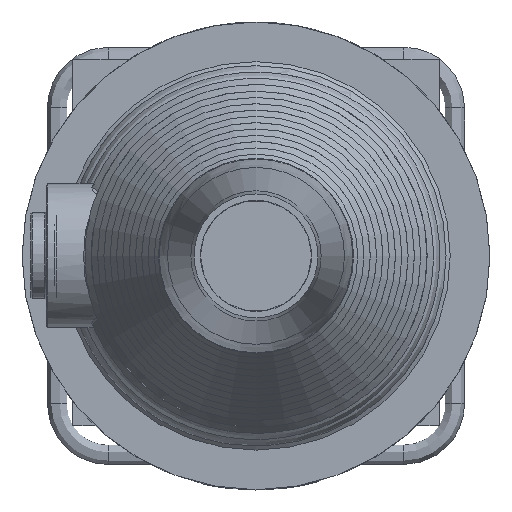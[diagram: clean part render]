
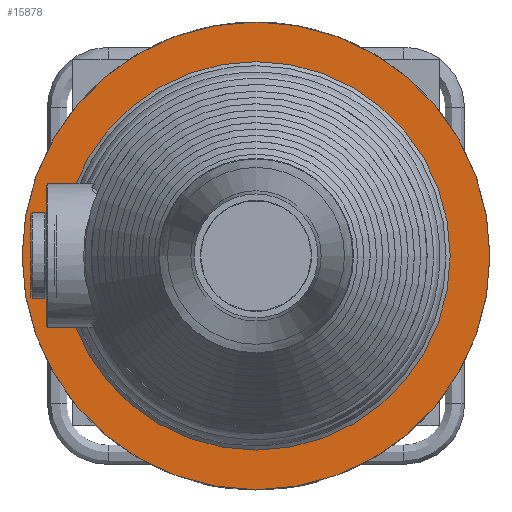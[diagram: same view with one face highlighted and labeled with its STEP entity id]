
A CAD part, left-side view. The second image highlights one B-rep face of the part: STEP entity #15878.
In plain terms, the highlighted conical face has half-angle 90 degrees and reference radius 84.659 mm.
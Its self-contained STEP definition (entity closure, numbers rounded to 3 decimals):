
#27=CONICAL_SURFACE('',#16742,84.659,90.);
#3638=FACE_BOUND('',#5588,.T.);
#4517=FACE_OUTER_BOUND('',#5587,.T.);
#5587=EDGE_LOOP('',(#14132));
#5588=EDGE_LOOP('',(#14133));
#6178=CIRCLE('',#16743,76.819);
#6179=CIRCLE('',#16744,92.5);
#7712=VERTEX_POINT('',#38087);
#7713=VERTEX_POINT('',#38089);
#9892=EDGE_CURVE('',#7712,#7712,#6178,.T.);
#9893=EDGE_CURVE('',#7713,#7713,#6179,.T.);
#14132=ORIENTED_EDGE('',*,*,#9892,.T.);
#14133=ORIENTED_EDGE('',*,*,#9893,.F.);
#15878=ADVANCED_FACE('',(#4517,#3638),#27,.F.);
#16742=AXIS2_PLACEMENT_3D('',#38086,#19332,#19333);
#16743=AXIS2_PLACEMENT_3D('',#38088,#19334,#19335);
#16744=AXIS2_PLACEMENT_3D('',#38090,#19336,#19337);
#19332=DIRECTION('center_axis',(-1.,0.,0.));
#19333=DIRECTION('ref_axis',(0.,-1.,0.));
#19334=DIRECTION('center_axis',(1.,0.,0.));
#19335=DIRECTION('ref_axis',(0.,0.,
-1.));
#19336=DIRECTION('center_axis',(1.,0.,0.));
#19337=DIRECTION('ref_axis',(0.,0.,
-1.));
#38086=CARTESIAN_POINT('Origin',(-314.652,0.,
0.));
#38087=CARTESIAN_POINT('',(-314.652,-76.819,0.));
#38088=CARTESIAN_POINT('Origin',(-314.652,0.,
0.));
#38089=CARTESIAN_POINT('',(-314.652,-92.5,0.));
#38090=CARTESIAN_POINT('Origin',(-314.652,0.,
0.));
